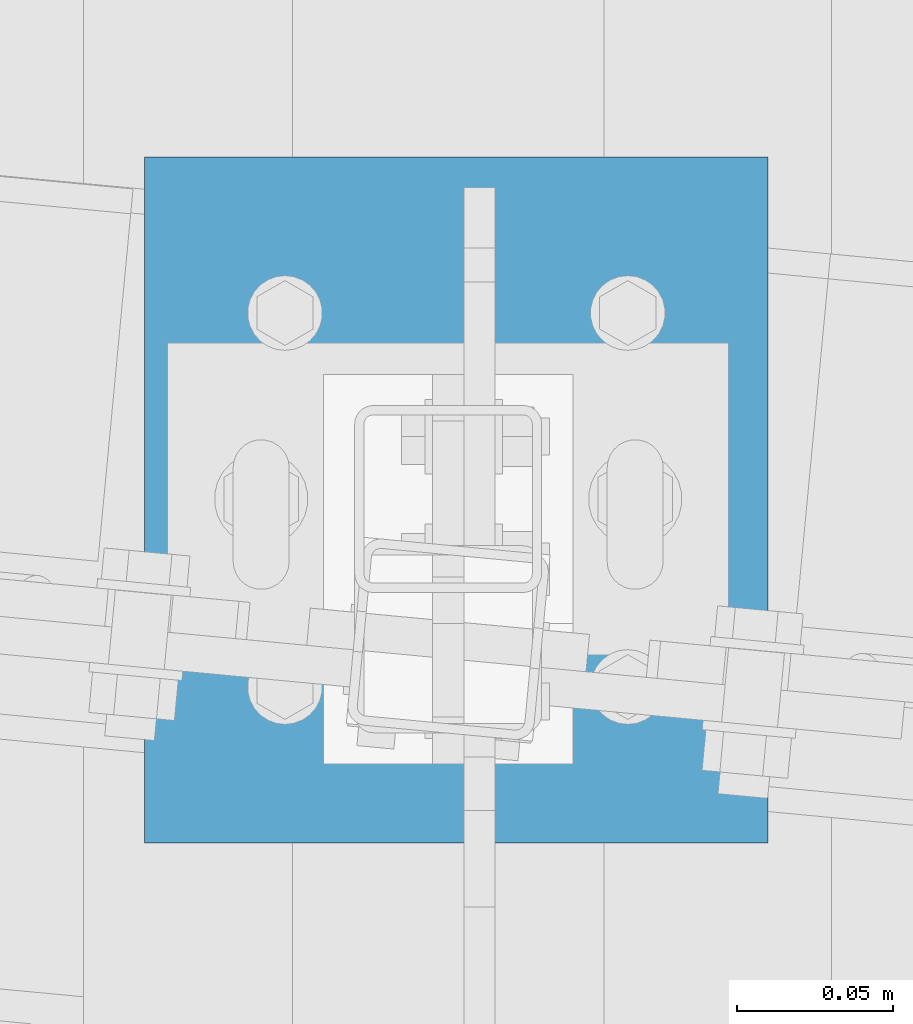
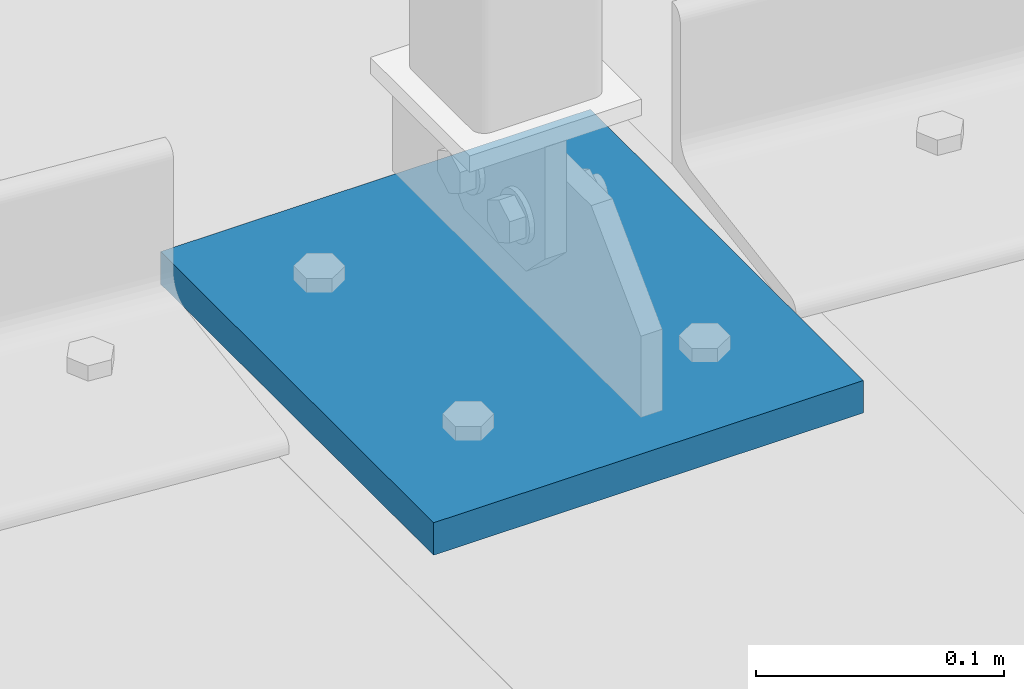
# One storey, part 79 of 271: 1 beam, 1 element without a shape of its own.
"""IFC2X3 building model written with IfcOpenShell, lengths in millimetres."""

from ifc_helpers import new_model, si_unit, frame, origin_with_axes, origin_2d_with_axis, place, context, subcontext, project, spatial, rectangle, extrude, material, type_object, element, aggregate, save


model = new_model("IFC2X3")

# Units and contexts
model_context = context("Model", 3, precision=1e-05, world=origin_with_axes())
body_context = subcontext(model_context, "Body", "Model", "MODEL_VIEW")
ifc_project = project(units=[si_unit("LENGTHUNIT", "METRE", prefix="MILLI"), si_unit("AREAUNIT", "SQUARE_METRE"), si_unit("VOLUMEUNIT", "CUBIC_METRE"), si_unit("MASSUNIT", "GRAM", prefix="KILO"), si_unit("TIMEUNIT", "SECOND"), si_unit("PLANEANGLEUNIT", "RADIAN"), si_unit("SOLIDANGLEUNIT", "STERADIAN"), si_unit("THERMODYNAMICTEMPERATUREUNIT", "DEGREE_CELSIUS"), si_unit("LUMINOUSINTENSITYUNIT", "LUMEN")], contexts=[model_context])

# Site, building, storey
site_placement = place(None, origin_with_axes())
site = spatial("IfcSite", under=ifc_project, at=site_placement, Name="Undefined", CompositionType="ELEMENT")
building_placement = place(site_placement, origin_with_axes())
building = spatial("IfcBuilding", under=site, at=building_placement, Name="Undefined", CompositionType="ELEMENT")
storey_placement = place(building_placement, origin_with_axes())
storey = spatial("IfcBuildingStorey", under=building, at=storey_placement, Name="Undefined", CompositionType="ELEMENT", Elevation=0.0)

# Assembly, beam
assembly_placement = place(storey_placement, origin_with_axes())
assembly = element("IfcElementAssembly", 1, at=assembly_placement, inside=storey, Name="BELKA", AssemblyPlace="NOTDEFINED", PredefinedType="RIGID_FRAME")
ifc_material = material(Name="STEEL/S355JR")
beam_type = type_object("IfcBeamType", Name="PL220*16", PredefinedType="NOTDEFINED")
beam_placement = place(assembly_placement, frame((3071.0, 4050.0, -8.0), z_axis=(0.0, -1.0, 0.0), x_axis=(1.0, 0.0, 0.0)))
beam = element("IfcBeam", 2, at=beam_placement, type_object=beam_type, material=ifc_material, Name="BELKA", ObjectType="PL220*16", context=body_context, shape_type="SweptSolid", body=[
    extrude(rectangle(XDim=16.0, YDim=220.0, at=origin_2d_with_axis()), frame((200.0, 0.0, 0.0), z_axis=(-1.0, 0.0, 1.38777878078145e-17), x_axis=(0.0, -1.0, 0.0)), (0.0, 0.0, 1.0), 200.0),
])
aggregate(assembly, [beam])

save(model, "model.ifc")
